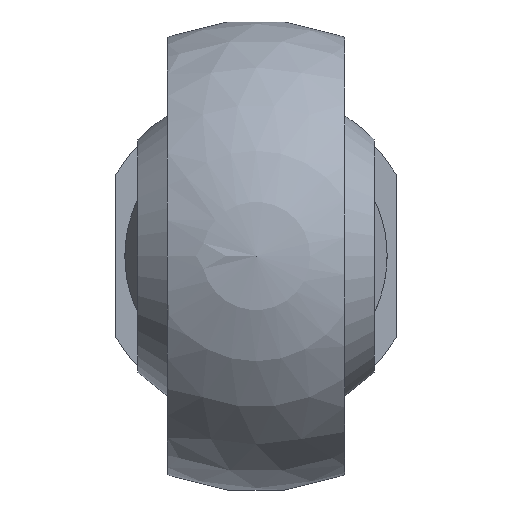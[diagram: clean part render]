
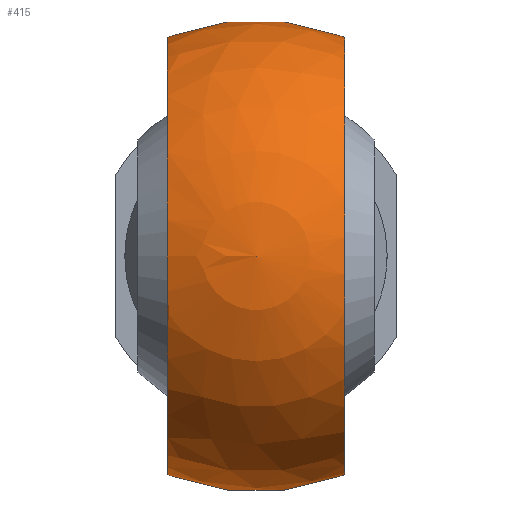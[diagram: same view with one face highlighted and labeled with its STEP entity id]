
A CAD part, left-side view. The second image highlights one B-rep face of the part: STEP entity #415.
In plain terms, the highlighted spherical face has radius 16 mm.
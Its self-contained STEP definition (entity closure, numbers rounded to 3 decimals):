
#23=SPHERICAL_SURFACE('',#454,16.);
#59=FACE_OUTER_BOUND('',#91,.T.);
#91=EDGE_LOOP('',(#295,#296,#297,#298));
#164=CIRCLE('',#443,14.832);
#166=CIRCLE('',#446,14.832);
#172=CIRCLE('',#455,13.951);
#173=CIRCLE('',#456,13.951);
#191=VERTEX_POINT('',#634);
#192=VERTEX_POINT('',#635);
#198=VERTEX_POINT('',#653);
#199=VERTEX_POINT('',#654);
#228=EDGE_CURVE('',#191,#192,#164,.F.);
#235=EDGE_CURVE('',#198,#199,#166,.F.);
#248=EDGE_CURVE('',#198,#192,#172,.T.);
#249=EDGE_CURVE('',#191,#199,#173,.T.);
#295=ORIENTED_EDGE('',*,*,#235,.F.);
#296=ORIENTED_EDGE('',*,*,#248,.T.);
#297=ORIENTED_EDGE('',*,*,#228,.F.);
#298=ORIENTED_EDGE('',*,*,#249,.T.);
#415=ADVANCED_FACE('',(#59),#23,.T.);
#443=AXIS2_PLACEMENT_3D('',#636,#504,#505);
#446=AXIS2_PLACEMENT_3D('',#655,#513,#514);
#454=AXIS2_PLACEMENT_3D('',#685,#534,#535);
#455=AXIS2_PLACEMENT_3D('',#686,#536,#537);
#456=AXIS2_PLACEMENT_3D('',#687,#538,#539);
#504=DIRECTION('center_axis',(0.,-1.,0.));
#505=DIRECTION('ref_axis',(0.,0.,-1.));
#513=DIRECTION('center_axis',(0.,1.,0.));
#514=DIRECTION('ref_axis',(0.,0.,1.));
#534=DIRECTION('center_axis',(-1.,0.,0.));
#535=DIRECTION('ref_axis',(0.,1.,0.));
#536=DIRECTION('center_axis',(-1.,0.,0.));
#537=DIRECTION('ref_axis',(0.,0.,1.));
#538=DIRECTION('center_axis',(-1.,0.,0.));
#539=DIRECTION('ref_axis',(0.,0.,1.));
#634=CARTESIAN_POINT('',(7.834,6.,-12.595));
#635=CARTESIAN_POINT('',(7.834,6.,12.595));
#636=CARTESIAN_POINT('Origin',(0.,6.,0.));
#653=CARTESIAN_POINT('',(7.834,-6.,12.595));
#654=CARTESIAN_POINT('',(7.834,-6.,-12.595));
#655=CARTESIAN_POINT('Origin',(0.,-6.,0.));
#685=CARTESIAN_POINT('Origin',(0.,0.,
0.));
#686=CARTESIAN_POINT('Origin',(7.834,0.,0.));
#687=CARTESIAN_POINT('Origin',(7.834,0.,0.));
